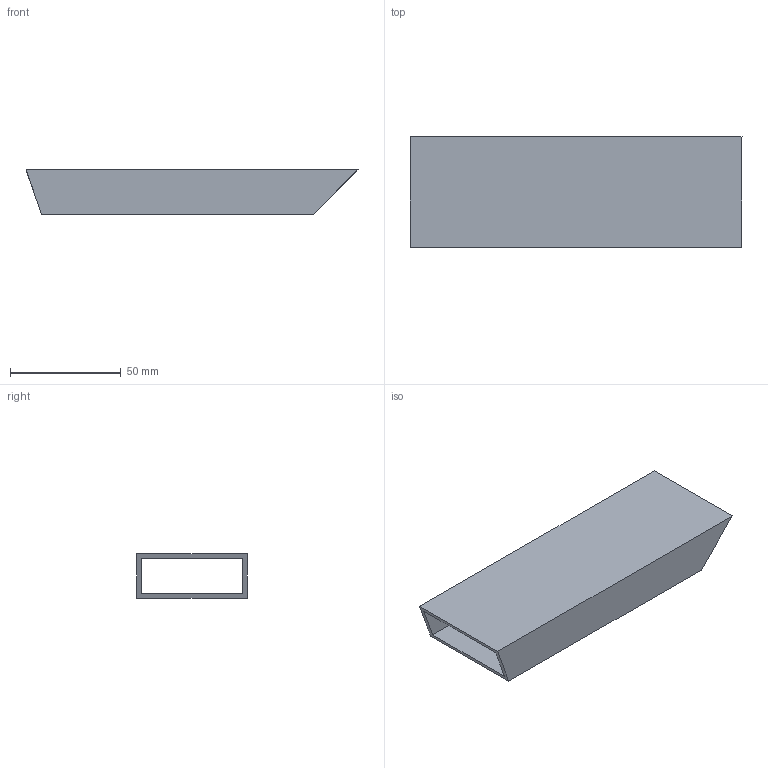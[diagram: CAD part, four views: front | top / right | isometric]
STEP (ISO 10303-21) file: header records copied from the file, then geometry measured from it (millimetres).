
FILE_DESCRIPTION(/* description */ (''),/* implementation_level */ '2;1');
FILE_NAME(/* name */ 'Pos132-Koker 50x20x2 EN 10219-2-S235JRH-1st',/* time_stamp */ '2024-08-06T13:49:48+02:00',/* author */ (''),/* organization */ (''),/* preprocessor_version */ 'ST-DEVELOPER v16.5',/* originating_system */ 'HiCAD 2024 2901.2 Build 361',/* authorisation */ '');
FILE_SCHEMA (('AUTOMOTIVE_DESIGN { 1 0 10303 214 1 1 1 1 }'));
Length unit declared in the file: millimetre
Products named in the file (1): Pos132-Koker 50x20x2 EN 10219-2-S235JRH-1st
Bounding box: 150.21 x 50 x 20 mm (x, y, z)
Volume: 36079.9 mm3; surface area: 36733.3 mm2
Topology: 1 solids, 1 shells, 10 faces, 24 edges, 16 vertices
Faces by surface type: plane 10
Entity records: 550 total; most frequent: CARTESIAN_POINT 50, PRESENTATION_STYLE_ASSIGNMENT 49, COLOUR_RGB 49, DRAUGHTING_PRE_DEFINED_CURVE_FONT 48, CURVE_STYLE 48, OVER_RIDING_STYLED_ITEM 48, ORIENTED_EDGE 48, DIRECTION 44
